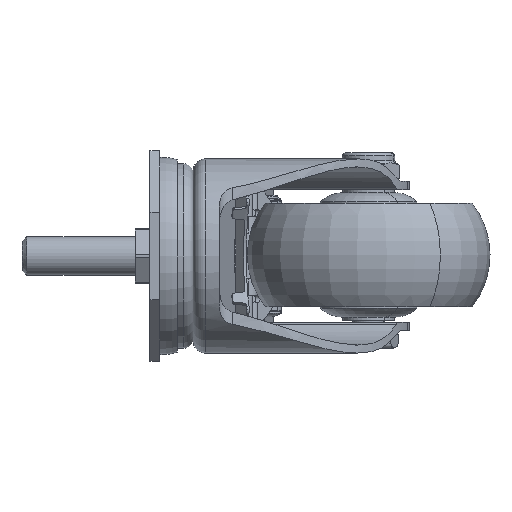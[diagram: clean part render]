
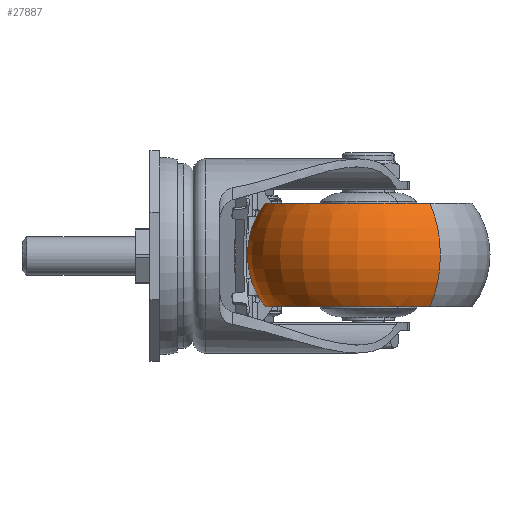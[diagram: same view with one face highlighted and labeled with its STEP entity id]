
A CAD part, left-side view. The second image highlights one B-rep face of the part: STEP entity #27887.
In plain terms, the highlighted toroidal (fillet/blend) face has major radius 11.477 mm and minor radius 26.023 mm.
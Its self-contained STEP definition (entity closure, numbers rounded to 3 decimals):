
#22150 = DIRECTION ( 'NONE',  ( 0., 0., 1. ) ) ;
#22151 = DIRECTION ( 'NONE',  ( -1., 0., 0. ) ) ;
#22153 = CARTESIAN_POINT ( 'NONE',  ( 0., 0., -11.477 ) ) ;
#22155 = AXIS2_PLACEMENT_3D ( 'NONE', #22153, #22151, #22150 ) ;
#22156 = CIRCLE ( 'NONE', #22155, 26.023 ) ;
#22163 = CARTESIAN_POINT ( 'NONE',  ( 0., -16., -32. ) ) ;
#22177 = CARTESIAN_POINT ( 'NONE',  ( 0., -16., 32. ) ) ;
#22179 = DIRECTION ( 'NONE',  ( 0., 0., -1. ) ) ;
#22181 = DIRECTION ( 'NONE',  ( 1., 0., 0. ) ) ;
#22182 = CARTESIAN_POINT ( 'NONE',  ( 0., 0., 11.477 ) ) ;
#22184 = AXIS2_PLACEMENT_3D ( 'NONE', #22182, #22181, #22179 ) ;
#22186 = CIRCLE ( 'NONE', #22184, 26.023 ) ;
#22191 = CARTESIAN_POINT ( 'NONE',  ( 0., 16., 32. ) ) ;
#22194 = CARTESIAN_POINT ( 'NONE',  ( 0., 16., -32. ) ) ;
#22663 = DIRECTION ( 'NONE',  ( 0., 0., -1. ) ) ;
#22665 = DIRECTION ( 'NONE',  ( 0., -1., 0. ) ) ;
#22667 = CARTESIAN_POINT ( 'NONE',  ( 0., -16., 0. ) ) ;
#22669 = AXIS2_PLACEMENT_3D ( 'NONE', #22667, #22665, #22663 ) ;
#22670 = CIRCLE ( 'NONE', #22669, 32. ) ;
#22739 = DIRECTION ( 'NONE',  ( 0., 0., -1. ) ) ;
#22741 = DIRECTION ( 'NONE',  ( 0., -1., 0. ) ) ;
#22742 = CARTESIAN_POINT ( 'NONE',  ( 0., 0., 0. ) ) ;
#22743 = AXIS2_PLACEMENT_3D ( 'NONE', #22742, #22741, #22739 ) ;
#22749 = TOROIDAL_SURFACE ( 'NONE', #22743, 11.477, 26.023 ) ;
#22750 = FACE_OUTER_BOUND ( 'NONE', #27891, .T. ) ;
#22752 = DIRECTION ( 'NONE',  ( 0., 0., -1. ) ) ;
#22753 = DIRECTION ( 'NONE',  ( 0., -1., 0. ) ) ;
#22755 = CARTESIAN_POINT ( 'NONE',  ( 0., 16., 0. ) ) ;
#22757 = AXIS2_PLACEMENT_3D ( 'NONE', #22755, #22753, #22752 ) ;
#22768 = CIRCLE ( 'NONE', #22757, 32. ) ;
#27496 = VERTEX_POINT ( 'NONE', #22194 ) ;
#27497 = VERTEX_POINT ( 'NONE', #22191 ) ;
#27501 = EDGE_CURVE ( 'NONE', #27497, #27504, #22186, .T. ) ;
#27504 = VERTEX_POINT ( 'NONE', #22177 ) ;
#27512 = VERTEX_POINT ( 'NONE', #22163 ) ;
#27518 = EDGE_CURVE ( 'NONE', #27496, #27512, #22156, .T. ) ;
#27827 = ORIENTED_EDGE ( 'NONE', *, *, #27830, .F. ) ;
#27830 = EDGE_CURVE ( 'NONE', #27504, #27512, #22670, .T. ) ;
#27876 = EDGE_CURVE ( 'NONE', #27497, #27496, #22768, .T. ) ;
#27887 = ADVANCED_FACE ( 'NONE', ( #22750 ), #22749, .T. ) ;
#27891 = EDGE_LOOP ( 'NONE', ( #27894, #27896, #27897, #27827 ) ) ;
#27894 = ORIENTED_EDGE ( 'NONE', *, *, #27501, .F. ) ;
#27896 = ORIENTED_EDGE ( 'NONE', *, *, #27876, .T. ) ;
#27897 = ORIENTED_EDGE ( 'NONE', *, *, #27518, .T. ) ;
